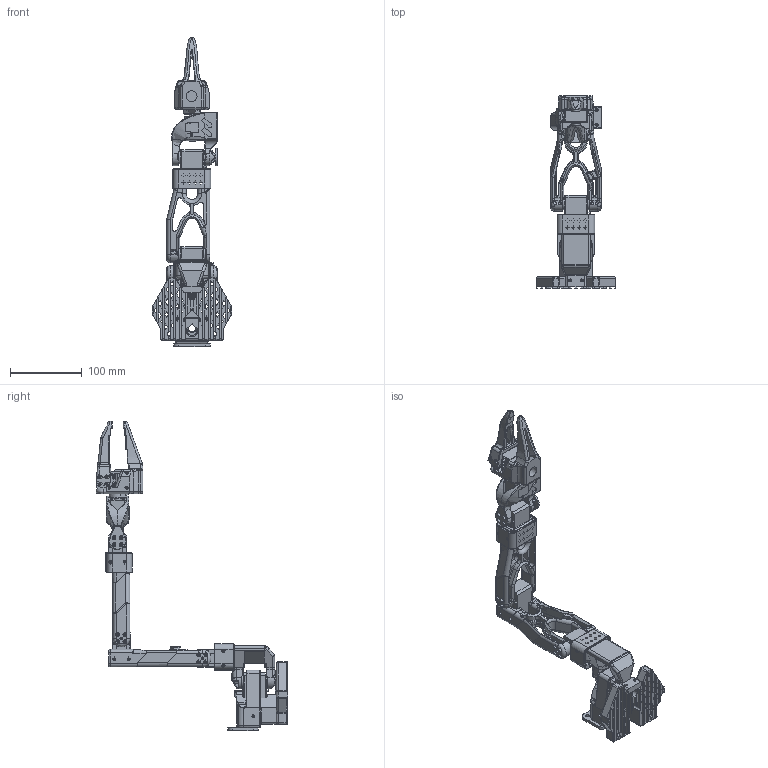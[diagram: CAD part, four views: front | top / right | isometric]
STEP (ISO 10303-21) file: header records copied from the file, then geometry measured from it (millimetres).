
FILE_DESCRIPTION(/* description */ (''),/* implementation_level */ '2;1');
FILE_NAME(/* name */ '',/* time_stamp */ '2025-09-22T21:02:29+08:00',/* author */ (''),/* organization */ (''),/* preprocessor_version */ 'ST-DEVELOPER v20.1',/* originating_system */ 'Autodesk Translation Framework v14.17.0.0',/* authorisation */ '');
FILE_SCHEMA (('AUTOMOTIVE_DESIGN { 1 0 10303 214 3 1 1 }'));
Products named in the file (13): Base_08q; Motor1_holder; Base_attachment; Rotation_Pitch_08i; SO_ARM100_08k (1); SO_ARM100_08k (2); SO_ARM100_08k; Wrist_Roll_Pitch_08i; STS3215_03a; Wrist_Roll_08c; STS3215_03a_1; Moving_Jaw_08d; WaveShare_Mounting_Plate_SO101
Assembly tree (17 placements, depth 2):
  Base_08q
    STS3215_03a_1  x5
    Motor1_holder
    Base_attachment
    Rotation_Pitch_08i
    SO_ARM100_08k  x2
    SO_ARM100_08k (1)
    SO_ARM100_08k (2)
    Wrist_Roll_Pitch_08i
    STS3215_03a
    Wrist_Roll_08c
    Moving_Jaw_08d
    WaveShare_Mounting_Plate_SO101
Bounding box: 110.92 x 266.77 x 429.97 mm (x, y, z)
Volume: 684528.1 mm3; surface area: 271580.6 mm2
Topology: 19 solids, 19 shells, 4257 faces, 11445 edges, 7210 vertices
Faces by surface type: plane 2647, cylinder 1089, bspline 272, torus 117, cone 111, sphere 21
Full cylindrical faces by diameter (mm): 1.5 x51, 2 x38, 2.1 x1, 2.5 x50, 3.2 x9, 3.5 x12, 4 x2, 4.8 x6, 5.4 x8, 6 x11, 7.904 x1, 9 x6, 15 x1, 20 x11, 24 x1
Entity records: 124929 total; most frequent: CARTESIAN_POINT 38720, ORIENTED_EDGE 18502, DIRECTION 17174, EDGE_CURVE 9251, LINE 6174, VECTOR 6174, VERTEX_POINT 5834, AXIS2_PLACEMENT_3D 5500
